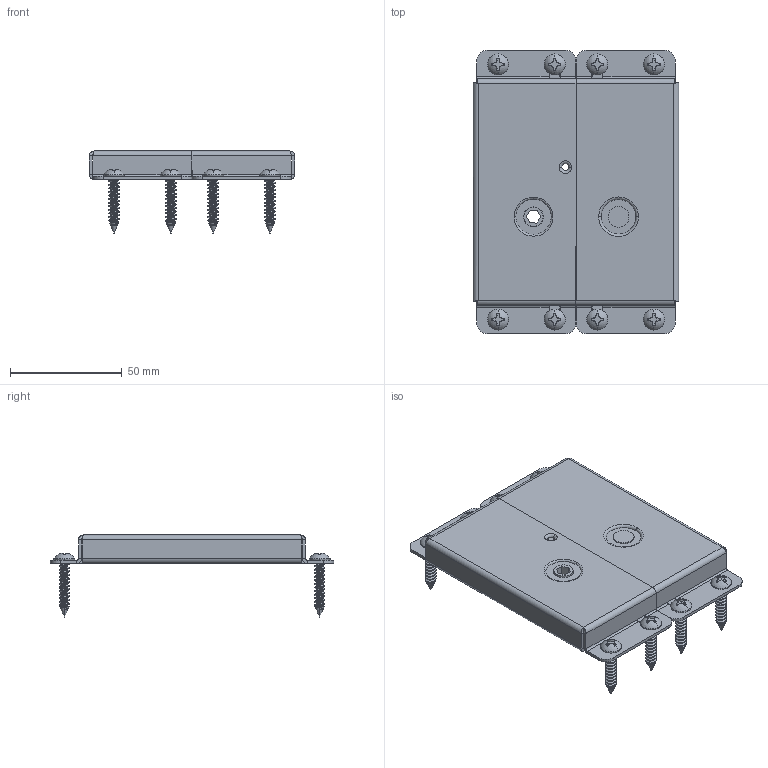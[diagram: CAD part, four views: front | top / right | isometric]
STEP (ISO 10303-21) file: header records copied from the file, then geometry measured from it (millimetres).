
FILE_DESCRIPTION (( 'STEP AP203' ), '1' );
FILE_NAME ('TDS36-4A ASSY.STEP', '2014-04-05T23:13:19', ( 'Owner' ), ( '' ), 'SwSTEP 2.0', 'SolidWorks 2011', '' );
FILE_SCHEMA (( 'CONFIG_CONTROL_DESIGN' ));
Length unit declared in the file: inch
Products named in the file (10): S-HOOK TDS 36-4A; SPRING PLATE TDS 36-4A; TDS36-4A ASSY; S HOOK ASSY TDS 36-4A_TDS 36-4A; T1 T2 T3 LARGE HEX KEY; TYPE 1 - LARGE ACTUATOR; #10 PHPS_90184A378; LARGE RIVET_.375 LG; R500-1R-750; S1500-1R-750
Assembly tree (16 placements, depth 3):
  TDS36-4A ASSY
    #10 PHPS_90184A378  x8
    S HOOK ASSY TDS 36-4A_TDS 36-4A
      SPRING PLATE TDS 36-4A
      TYPE 1 - LARGE ACTUATOR
      T1 T2 T3 LARGE HEX KEY
      S-HOOK TDS 36-4A
    LARGE RIVET_.375 LG
    R500-1R-750
    S1500-1R-750
Bounding box: 92.05 x 127 x 36.73 mm (x, y, z)
Volume: 41651.4 mm3; surface area: 62541.7 mm2
Topology: 15 solids, 15 shells, 1215 faces, 3390 edges, 2212 vertices
Faces by surface type: cylinder 535, plane 324, bspline 236, cone 72, torus 32, sphere 16
Entity records: 16953 total; most frequent: CARTESIAN_POINT 5981, ORIENTED_EDGE 2132, DIRECTION 1937, EDGE_CURVE 1066, AXIS2_PLACEMENT_3D 676, VERTEX_POINT 665, LINE 585, VECTOR 585
